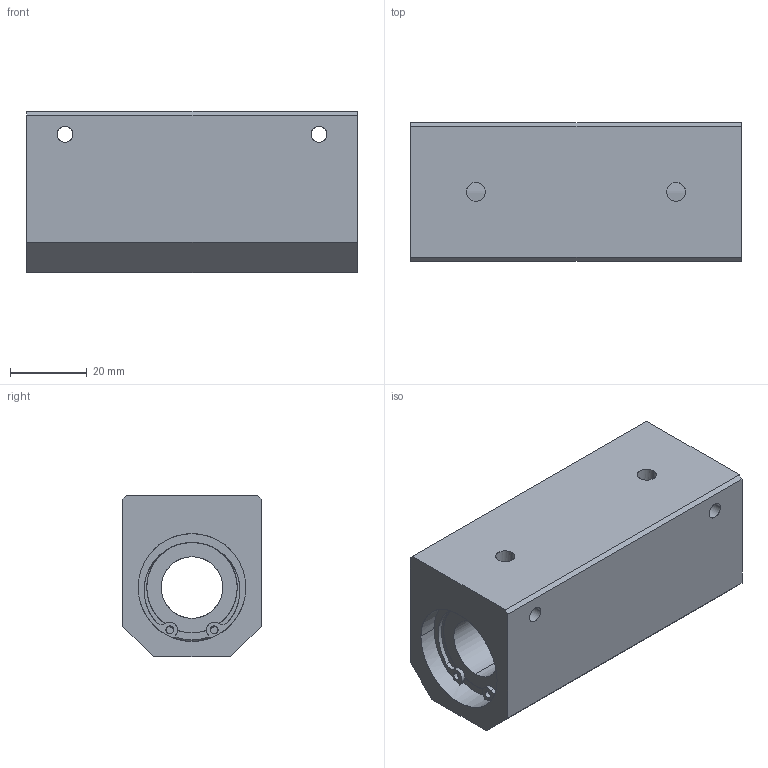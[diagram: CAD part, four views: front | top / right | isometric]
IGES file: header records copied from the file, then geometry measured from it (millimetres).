
Global section: file name: No Iges File Name specified; native system: AutoDesk Inventor R11.0; preprocessor: AutoDesk Inventor Iges Exporter R11.0; author: No Author specified; organization: No Organization specified; date: 20111024.132848; units: millimetre
Bounding box: 86 x 36 x 42 mm (x, y, z)
Surface area: 23948.2 mm2 (no closed solid volume)
Topology: 0 solids, 0 shells, 122 faces, 936 edges, 936 vertices
Faces by surface type: bspline 122
